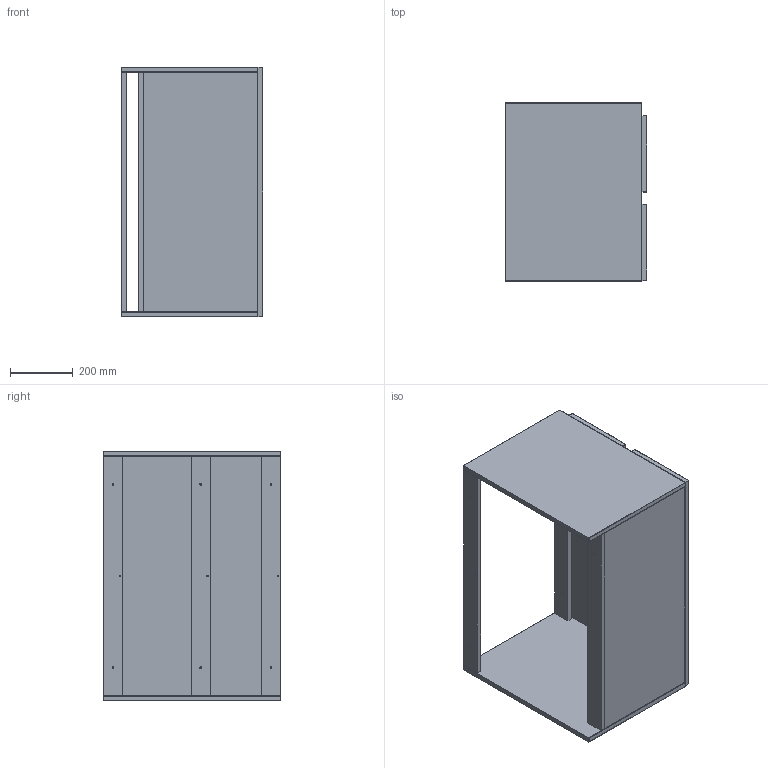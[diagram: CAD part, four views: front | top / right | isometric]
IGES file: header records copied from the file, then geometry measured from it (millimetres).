
Start section: SolidWorks IGES file using analytic representation for surfaces
Global section: file name: D:\DOWNLOADS\BBOX_MUEBLE 80 2C_F.IGS; native system: SolidWorks 2021; preprocessor: SolidWorks 2021; author: LINECA; date: 211129.111839; units: millimetre
Bounding box: 450 x 565 x 795 mm (x, y, z)
Surface area: 2953587.2 mm2 (no closed solid volume)
Topology: 0 solids, 0 shells, 280 faces, 3820 edges, 3788 vertices
Faces by surface type: bspline 248, revolution 32
